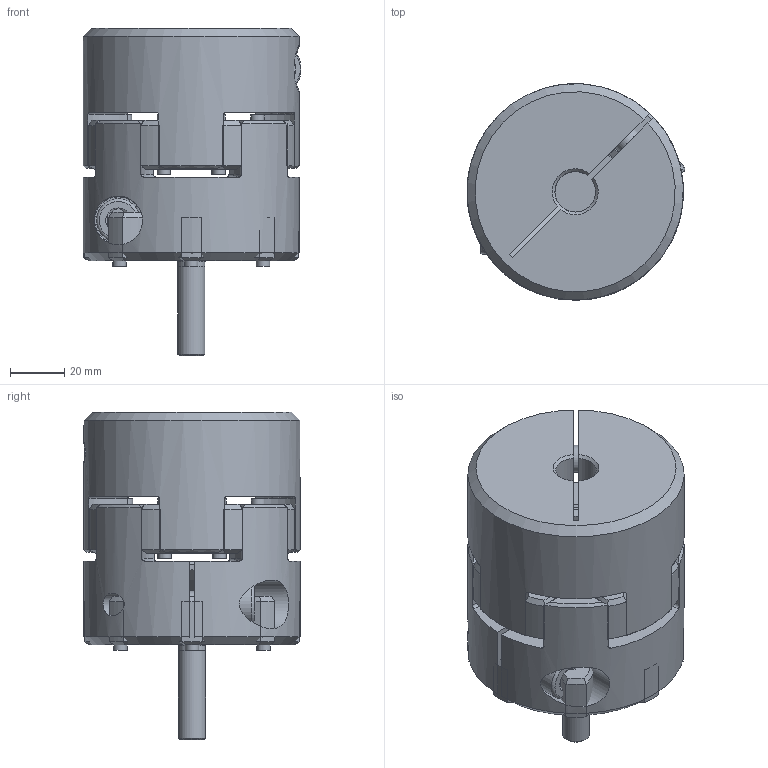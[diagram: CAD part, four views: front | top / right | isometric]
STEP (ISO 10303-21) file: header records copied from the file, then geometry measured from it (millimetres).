
FILE_DESCRIPTION( ( 'Unknown' ), '1' );
FILE_NAME( 'C:/Dokumente und Einstellungen/Sven/Desktop/homepage/cad - homepage/KBE2C/KBE2C-38.stp', 'Unknown', ( 'Unknown' ), ( 'Unknown' ), 'XStep 1.0', 'Unknown', ' ' );
FILE_SCHEMA( ( 'automotive_design' ) );
Length unit declared in the file: millimetre
Products named in the file (4): Assem1; KBE 2C - 38_Nabe; Zahnkranz_38_Standard; ISO EN DIN 4762 M10x35
Bounding box: 80.59 x 80 x 121 mm (x, y, z)
Volume: 568349 mm3; surface area: 119915.1 mm2
Topology: 8 solids, 8 shells, 479 faces, 1132 edges, 704 vertices
Faces by surface type: cone 181, cylinder 150, plane 108, torus 40
Full cylindrical faces by diameter (mm): 5 x16, 8.376 x3, 9 x3, 10 x6, 11 x3, 16 x3, 18 x3, 38 x4
Entity records: 6146 total; most frequent: CARTESIAN_POINT 1563, DIRECTION 939, ORIENTED_EDGE 858, AXIS2_PLACEMENT_3D 432, EDGE_CURVE 429, VERTEX_POINT 280, EDGE_LOOP 239, CIRCLE 231
